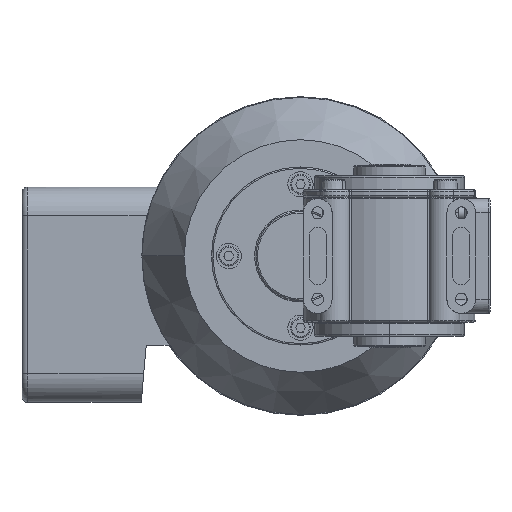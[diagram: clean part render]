
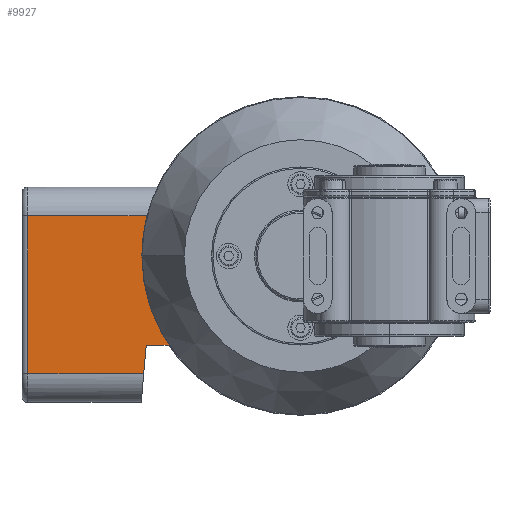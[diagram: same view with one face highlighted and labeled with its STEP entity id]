
A CAD part, left-side view. The second image highlights one B-rep face of the part: STEP entity #9927.
In plain terms, the highlighted planar face has unit normal (-1, 0, 0).
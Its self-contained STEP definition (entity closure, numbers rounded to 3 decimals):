
#669 = CARTESIAN_POINT ( 'NONE',  ( -25.166, 90.254, 14. ) ) ;
#723 = EDGE_LOOP ( 'NONE', ( #15245, #3345, #4047, #26522, #4395, #24723, #10058 ) ) ;
#2709 = EDGE_CURVE ( 'NONE', #11462, #2938, #15536, .T. ) ;
#2938 = VERTEX_POINT ( 'NONE', #4410 ) ;
#3345 = ORIENTED_EDGE ( 'NONE', *, *, #23395, .F. ) ;
#3806 = CARTESIAN_POINT ( 'NONE',  ( -25.166, 131.807, -41. ) ) ;
#3935 = VECTOR ( 'NONE', #4121, 1000. ) ;
#4010 = DIRECTION ( 'NONE',  ( 1., 0., 0. ) ) ;
#4047 = ORIENTED_EDGE ( 'NONE', *, *, #12369, .F. ) ;
#4121 = DIRECTION ( 'NONE',  ( 0., 0.087, -0.996 ) ) ;
#4395 = ORIENTED_EDGE ( 'NONE', *, *, #13594, .T. ) ;
#4410 = CARTESIAN_POINT ( 'NONE',  ( -25.166, 92.057, 0. ) ) ;
#4910 = AXIS2_PLACEMENT_3D ( 'NONE', #24848, #4010, #12197 ) ;
#5050 = DIRECTION ( 'NONE',  ( 0., -1., 0. ) ) ;
#6685 = VERTEX_POINT ( 'NONE', #9932 ) ;
#6844 = DIRECTION ( 'NONE',  ( 1., 0., 0. ) ) ;
#6995 = DIRECTION ( 'NONE',  ( 1., 0., 0. ) ) ;
#7625 = CIRCLE ( 'NONE', #12975, 55.25 ) ;
#8746 = DIRECTION ( 'NONE',  ( 0., -1., 0. ) ) ;
#9147 = VERTEX_POINT ( 'NONE', #21384 ) ;
#9891 = LINE ( 'NONE', #16164, #23560 ) ;
#9927 = ADVANCED_FACE ( 'NONE', ( #23664 ), #19764, .F. ) ;
#9932 = CARTESIAN_POINT ( 'NONE',  ( -25.166, 91.416, -41. ) ) ;
#10058 = ORIENTED_EDGE ( 'NONE', *, *, #15410, .T. ) ;
#11462 = VERTEX_POINT ( 'NONE', #24546 ) ;
#12130 = LINE ( 'NONE', #3806, #20088 ) ;
#12197 = DIRECTION ( 'NONE',  ( 0., -1., 0. ) ) ;
#12264 = DIRECTION ( 'NONE',  ( 0., 0., -1. ) ) ;
#12369 = EDGE_CURVE ( 'NONE', #11462, #13277, #23816, .T. ) ;
#12442 = CARTESIAN_POINT ( 'NONE',  ( -25.166, 90.541, -31. ) ) ;
#12803 = AXIS2_PLACEMENT_3D ( 'NONE', #19332, #6995, #8746 ) ;
#12975 = AXIS2_PLACEMENT_3D ( 'NONE', #20447, #6844, #5050 ) ;
#13277 = VERTEX_POINT ( 'NONE', #27425 ) ;
#13594 = EDGE_CURVE ( 'NONE', #2938, #17857, #7625, .T. ) ;
#14591 = EDGE_CURVE ( 'NONE', #9147, #6685, #9891, .T. ) ;
#15137 = VERTEX_POINT ( 'NONE', #22359 ) ;
#15245 = ORIENTED_EDGE ( 'NONE', *, *, #14591, .T. ) ;
#15356 = DIRECTION ( 'NONE',  ( 0., 1., 0. ) ) ;
#15410 = EDGE_CURVE ( 'NONE', #15137, #9147, #12130, .T. ) ;
#15536 = CIRCLE ( 'NONE', #4910, 55.25 ) ;
#16164 = CARTESIAN_POINT ( 'NONE',  ( -25.166, 133.807, -41. ) ) ;
#16787 = LINE ( 'NONE', #19258, #23158 ) ;
#17857 = VERTEX_POINT ( 'NONE', #669 ) ;
#18357 = DIRECTION ( 'NONE',  ( 0., -1., 0. ) ) ;
#18390 = LINE ( 'NONE', #12442, #3935 ) ;
#19258 = CARTESIAN_POINT ( 'NONE',  ( -25.166, 133.807, 14. ) ) ;
#19332 = CARTESIAN_POINT ( 'NONE',  ( -25.166, 133.807, -41. ) ) ;
#19764 = PLANE ( 'NONE',  #12803 ) ;
#20088 = VECTOR ( 'NONE', #12264, 1000. ) ;
#20447 = CARTESIAN_POINT ( 'NONE',  ( -25.166, 36.807, 0. ) ) ;
#21384 = CARTESIAN_POINT ( 'NONE',  ( -25.166, 131.807, -41. ) ) ;
#22359 = CARTESIAN_POINT ( 'NONE',  ( -25.166, 131.807, 14. ) ) ;
#23158 = VECTOR ( 'NONE', #25268, 1000. ) ;
#23395 = EDGE_CURVE ( 'NONE', #13277, #6685, #18390, .T. ) ;
#23560 = VECTOR ( 'NONE', #18357, 1000. ) ;
#23664 = FACE_OUTER_BOUND ( 'NONE', #723, .T. ) ;
#23816 = LINE ( 'NONE', #23963, #26208 ) ;
#23963 = CARTESIAN_POINT ( 'NONE',  ( -25.166, 90.541, -31. ) ) ;
#24546 = CARTESIAN_POINT ( 'NONE',  ( -25.166, 82.541, -31. ) ) ;
#24723 = ORIENTED_EDGE ( 'NONE', *, *, #25094, .F. ) ;
#24848 = CARTESIAN_POINT ( 'NONE',  ( -25.166, 36.807, 0. ) ) ;
#25094 = EDGE_CURVE ( 'NONE', #15137, #17857, #16787, .T. ) ;
#25268 = DIRECTION ( 'NONE',  ( 0., -1., 0. ) ) ;
#26208 = VECTOR ( 'NONE', #15356, 1000. ) ;
#26522 = ORIENTED_EDGE ( 'NONE', *, *, #2709, .T. ) ;
#27425 = CARTESIAN_POINT ( 'NONE',  ( -25.166, 90.541, -31. ) ) ;
